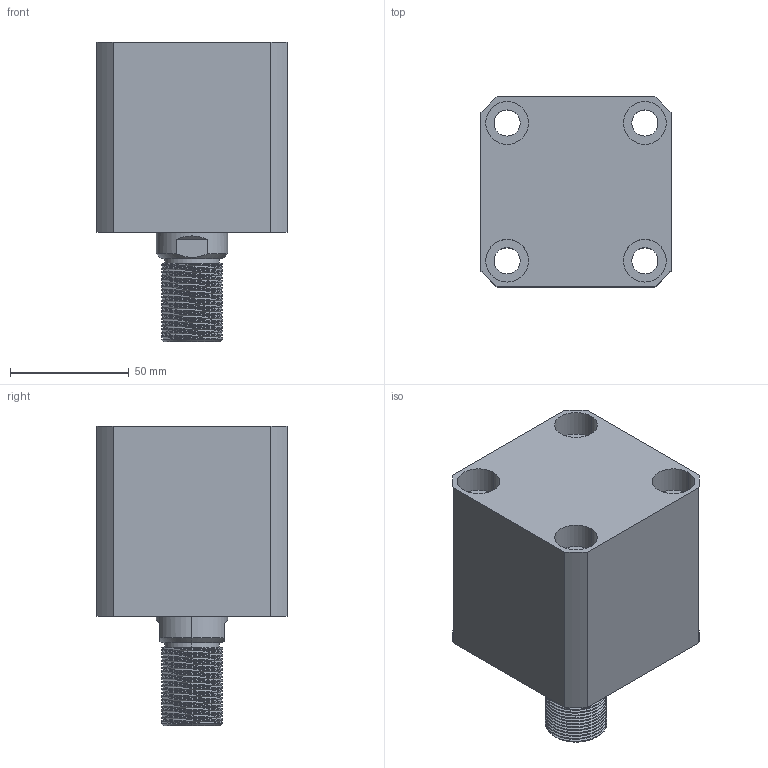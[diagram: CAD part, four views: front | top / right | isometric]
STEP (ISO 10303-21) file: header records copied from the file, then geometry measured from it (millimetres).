
FILE_DESCRIPTION (( 'STEP AP203' ), '1' );
FILE_NAME ('CHTB-SD50-20W.STEP', '2018-05-18T11:54:38', ( '' ), ( '' ), 'SwSTEP 2.0', 'SolidWorks 2015', '' );
FILE_SCHEMA (( 'CONFIG_CONTROL_DESIGN' ));
Length unit declared in the file: millimetre
Products named in the file (4): 掛极SD50-20W; CHTB-SD50-20W; 活塞杆SD50-20W; CHTM-SD50QG
Assembly tree (3 placements, depth 2):
  CHTB-SD50-20W
    掛极SD50-20W
    活塞杆SD50-20W
    CHTM-SD50QG
Bounding box: 80 x 80 x 126 mm (x, y, z)
Volume: 453571.8 mm3; surface area: 95422.5 mm2
Topology: 3 solids, 3 shells, 237 faces, 628 edges, 419 vertices
Faces by surface type: cylinder 144, plane 42, cone 19, bspline 16, torus 16
Entity records: 14533 total; most frequent: CARTESIAN_POINT 8684, ORIENTED_EDGE 1248, DIRECTION 1035, EDGE_CURVE 624, AXIS2_PLACEMENT_3D 423, VERTEX_POINT 419, EDGE_LOOP 277, ADVANCED_FACE 237
